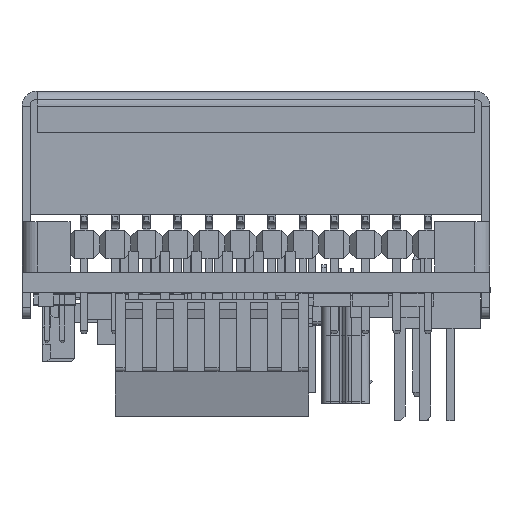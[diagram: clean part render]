
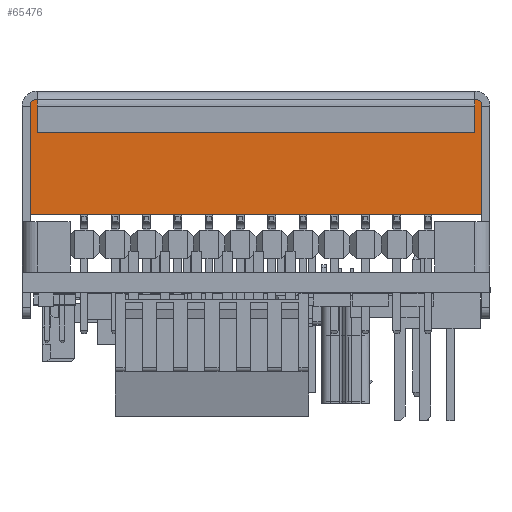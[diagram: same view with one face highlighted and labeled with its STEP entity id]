
A CAD part, left-side view. The second image highlights one B-rep face of the part: STEP entity #65476.
In plain terms, the highlighted planar face has unit normal (-1, 0, 0).
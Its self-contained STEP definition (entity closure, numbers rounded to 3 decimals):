
#4027 = LINE ( 'NONE', #115313, #69286 ) ;
#9129 = ORIENTED_EDGE ( 'NONE', *, *, #125490, .F. ) ;
#9785 = LINE ( 'NONE', #127658, #79058 ) ;
#13026 = DIRECTION ( 'NONE',  ( 0., -1., 0. ) ) ;
#14061 = CARTESIAN_POINT ( 'NONE',  ( -55.35, 9.4, -18.35 ) ) ;
#27334 = CARTESIAN_POINT ( 'NONE',  ( -55.35, 9.4, 18.35 ) ) ;
#30531 = CARTESIAN_POINT ( 'NONE',  ( -55.35, 9.4, -18.35 ) ) ;
#31659 = ORIENTED_EDGE ( 'NONE', *, *, #69850, .F. ) ;
#34881 = VERTEX_POINT ( 'NONE', #61072 ) ;
#38321 = VERTEX_POINT ( 'NONE', #139068 ) ;
#41443 = CARTESIAN_POINT ( 'NONE',  ( -55.35, 9.4, 18.35 ) ) ;
#51457 = ORIENTED_EDGE ( 'NONE', *, *, #65607, .T. ) ;
#57454 = DIRECTION ( 'NONE',  ( 1., 0., 0. ) ) ;
#61072 = CARTESIAN_POINT ( 'NONE',  ( -55.35, 0., 18.35 ) ) ;
#65476 = ADVANCED_FACE ( 'NONE', ( #77630 ), #128638, .F. ) ;
#65607 = EDGE_CURVE ( 'NONE', #123388, #38321, #9785, .T. ) ;
#69286 = VECTOR ( 'NONE', #117772, 1000. ) ;
#69850 = EDGE_CURVE ( 'NONE', #123388, #135851, #97068, .T. ) ;
#77630 = FACE_OUTER_BOUND ( 'NONE', #89514, .T. ) ;
#78378 = DIRECTION ( 'NONE',  ( 0., -1., 0. ) ) ;
#79058 = VECTOR ( 'NONE', #13026, 1000. ) ;
#85037 = DIRECTION ( 'NONE',  ( 0., 0., -1. ) ) ;
#88520 = EDGE_CURVE ( 'NONE', #38321, #34881, #4027, .T. ) ;
#89514 = EDGE_LOOP ( 'NONE', ( #92484, #9129, #31659, #51457 ) ) ;
#90993 = LINE ( 'NONE', #27334, #127468 ) ;
#92484 = ORIENTED_EDGE ( 'NONE', *, *, #88520, .T. ) ;
#97068 = LINE ( 'NONE', #159919, #119879 ) ;
#115313 = CARTESIAN_POINT ( 'NONE',  ( -55.35, 0., -18.35 ) ) ;
#117772 = DIRECTION ( 'NONE',  ( 0., 0., 1. ) ) ;
#119879 = VECTOR ( 'NONE', #134725, 1000. ) ;
#123388 = VERTEX_POINT ( 'NONE', #30531 ) ;
#125490 = EDGE_CURVE ( 'NONE', #135851, #34881, #90993, .T. ) ;
#127468 = VECTOR ( 'NONE', #78378, 1000. ) ;
#127658 = CARTESIAN_POINT ( 'NONE',  ( -55.35, 9.4, -18.35 ) ) ;
#128638 = PLANE ( 'NONE',  #159215 ) ;
#134725 = DIRECTION ( 'NONE',  ( 0., 0., 1. ) ) ;
#135851 = VERTEX_POINT ( 'NONE', #41443 ) ;
#139068 = CARTESIAN_POINT ( 'NONE',  ( -55.35, 0., -18.35 ) ) ;
#159215 = AXIS2_PLACEMENT_3D ( 'NONE', #14061, #57454, #85037 ) ;
#159919 = CARTESIAN_POINT ( 'NONE',  ( -55.35, 9.4, -18.35 ) ) ;
